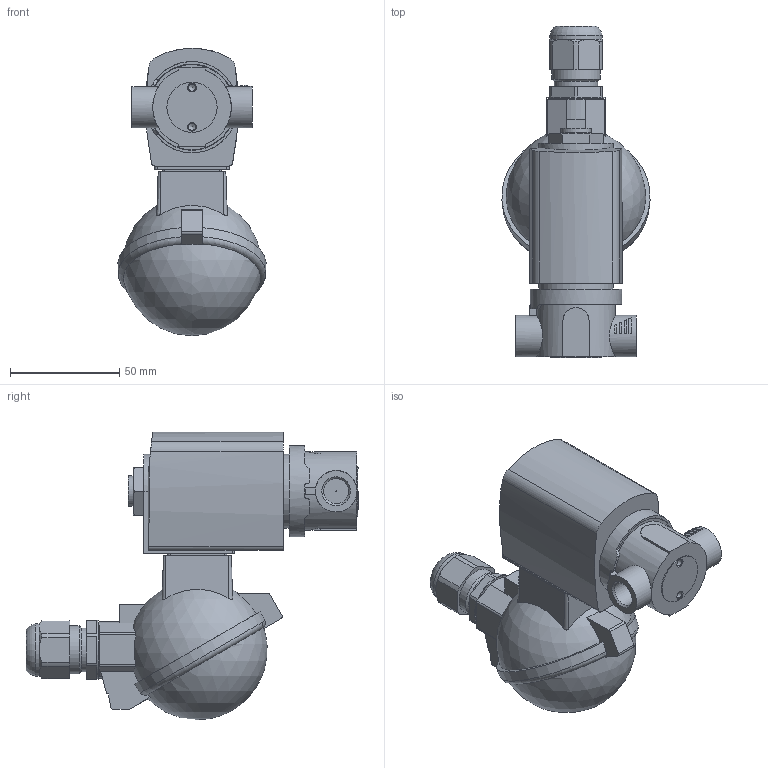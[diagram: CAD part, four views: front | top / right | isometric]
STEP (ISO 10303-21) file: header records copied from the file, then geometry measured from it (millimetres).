
FILE_DESCRIPTION(/* description */ ('STEP AP214'),/* implementation_level */ '2;1');
FILE_NAME(/* name */ '6027-A-4-NBR___NBR-MS-G_1_4-42-024___UC',/* time_stamp */ '2024-03-26T23:05:43+01:00',/* author */ ('License CC BY-ND 4.0'),/* organization */ ('CADENAS'),/* preprocessor_version */ 'ST-DEVELOPER v19.3',/* originating_system */ 'PARTsolutions',/* authorisation */ ' ');
FILE_SCHEMA (('AUTOMOTIVE_DESIGN {1 0 10303 214 3 1 1}'));
Length unit declared in the file: millimetre
Products named in the file (3): 6027-A-4-NBR / NBR-MS-G 1/4-42-024 / UC; AC10ex-42ATEXKLK_MB05Plan-Coil; V027-Gehaeuse G 1/4 1 1 MS G55 1 1
Assembly tree (2 placements, depth 2):
  6027-A-4-NBR / NBR-MS-G 1/4-42-024 / UC
    AC10ex-42ATEXKLK_MB05Plan-Coil
    V027-Gehaeuse G 1/4 1 1 MS G55 1 1
Bounding box: 67.86 x 152.1 x 131.7 mm (x, y, z)
Volume: 351440.8 mm3; surface area: 49092.1 mm2
Topology: 2 solids, 2 shells, 218 faces, 561 edges, 366 vertices
Faces by surface type: plane 121, cylinder 65, cone 25, sphere 4, torus 3
Full cylindrical faces by diameter (mm): 0.2 x1, 3.242 x3, 11.445 x2, 14 x2, 17.294 x1, 19 x2, 20 x1, 22 x1, 23 x2, 24 x1, 27 x1, 34 x1, 36 x1, 39 x1, 39.5 x1, 41.8 x1
Entity records: 7561 total; most frequent: CARTESIAN_POINT 1309, DIRECTION 1117, ORIENTED_EDGE 1024, EDGE_CURVE 512, AXIS2_PLACEMENT_3D 437, VERTEX_POINT 352, FACE_BOUND 274, EDGE_LOOP 272
